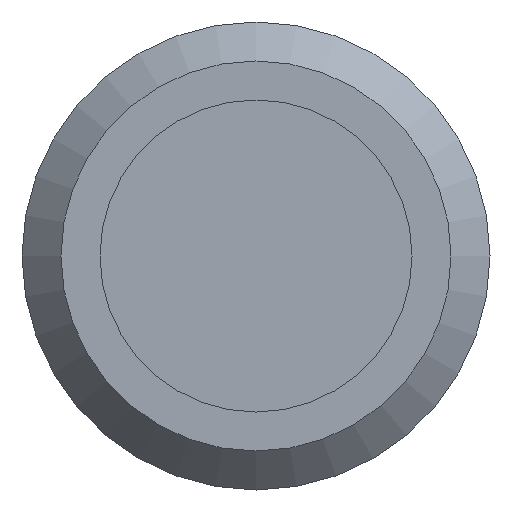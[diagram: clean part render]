
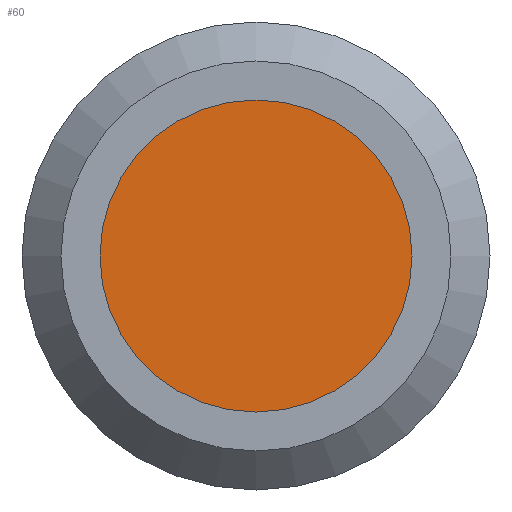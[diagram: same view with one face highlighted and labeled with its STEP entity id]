
A CAD part, front view. The second image highlights one B-rep face of the part: STEP entity #60.
In plain terms, the highlighted planar face has unit normal (0, -1, 0).
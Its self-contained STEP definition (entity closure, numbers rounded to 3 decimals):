
#50=FACE_OUTER_BOUND('',#84,.T.);
#60=ADVANCED_FACE('',(#50),#64,.T.);
#64=PLANE('',#129);
#84=EDGE_LOOP('',(#96));
#96=ORIENTED_EDGE('',*,*,#110,.F.);
#104=VERTEX_POINT('',#176);
#110=EDGE_CURVE('',#104,#104,#116,.T.);
#116=CIRCLE('',#128,2.);
#128=AXIS2_PLACEMENT_3D('',#175,#153,#154);
#129=AXIS2_PLACEMENT_3D('',#177,#155,#156);
#153=DIRECTION('',(0.,1.,0.));
#154=DIRECTION('',(0.,0.,-1.));
#155=DIRECTION('',(0.,-1.,0.));
#156=DIRECTION('',(0.,0.,-1.));
#175=CARTESIAN_POINT('',(0.,-60.,0.));
#176=CARTESIAN_POINT('',(0.,-60.,-2.));
#177=CARTESIAN_POINT('',(0.,-60.,0.));
